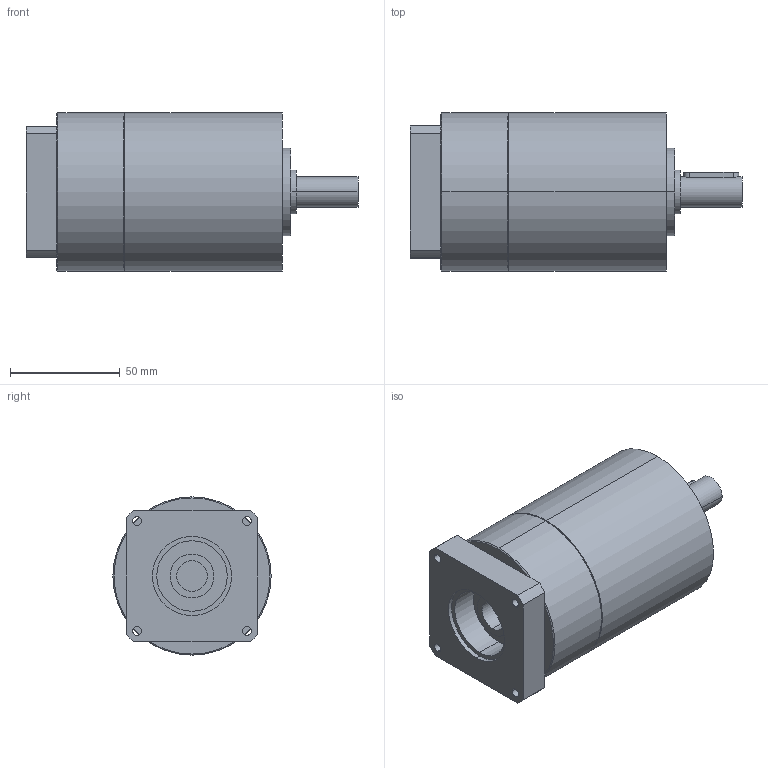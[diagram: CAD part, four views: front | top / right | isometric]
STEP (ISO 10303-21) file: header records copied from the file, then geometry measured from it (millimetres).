
FILE_DESCRIPTION(('CoCreate Modeling STEP Export'),'2;1');
FILE_NAME('GPT75_ig-9-12-16-20-25-28-35-40-50-70-100_14_B14T_14_P35.stp','2014-08-27T13:17:31',(''),(''),'CoCreate Modeling STEP processor for AP214 (Solid Model)','CoCreate Modeling 16.00C 25-Feb-2009 (C) Parametric Technology GmbH','');
FILE_SCHEMA(('AUTOMOTIVE_DESIGN { 1 0 10303 214 1 1 1 1 }'));
Length unit declared in the file: millimetre
Products named in the file (2): GPT75_ig-9-12-16-20-25-28-35-40-50-70-100_14_B14T_14_P35
Assembly tree (1 placements, depth 2):
  GPT75_ig-9-12-16-20-25-28-35-40-50-70-100_14_B14T_14_P35
    GPT75_ig-9-12-16-20-25-28-35-40-50-70-100_14_B14T_14_P35
Bounding box: 151 x 72 x 72 mm (x, y, z)
Volume: 460477.2 mm3; surface area: 41585.3 mm2
Topology: 1 solids, 1 shells, 80 faces, 198 edges, 129 vertices
Faces by surface type: cylinder 42, plane 34, cone 4
Entity records: 2353 total; most frequent: CARTESIAN_POINT 689, ORIENTED_EDGE 396, DIRECTION 276, EDGE_CURVE 198, VERTEX_POINT 129, AXIS2_PLACEMENT_3D 104, EDGE_LOOP 97, FACE_OUTER_BOUND 80
